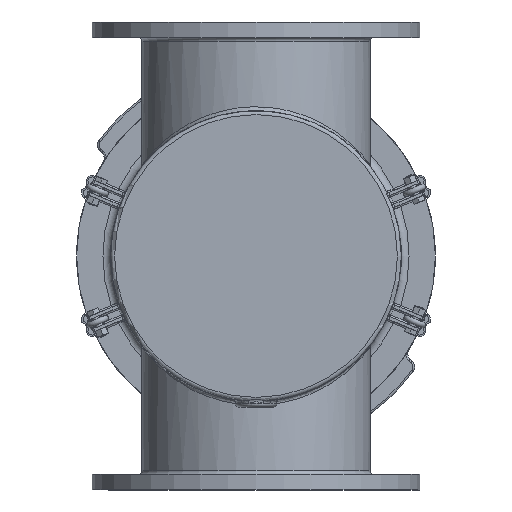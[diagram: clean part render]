
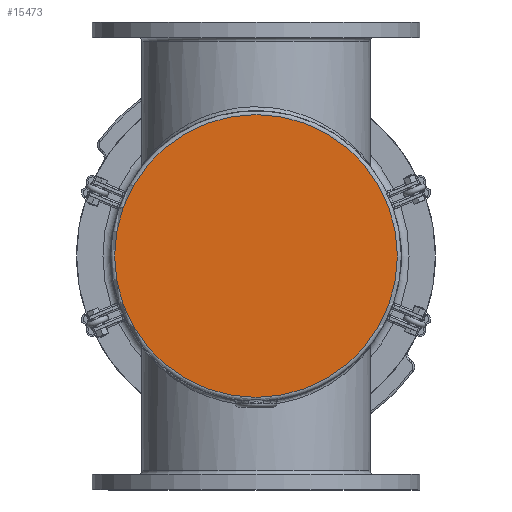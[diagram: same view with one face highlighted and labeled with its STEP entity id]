
A CAD part, front view. The second image highlights one B-rep face of the part: STEP entity #15473.
In plain terms, the highlighted planar face has unit normal (0, -1, 0).
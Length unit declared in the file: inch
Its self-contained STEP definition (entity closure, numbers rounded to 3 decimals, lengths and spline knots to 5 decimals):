
#2186=PLANE('',#16515);
#3487=FACE_OUTER_BOUND('',#4481,.T.);
#4481=EDGE_LOOP('',(#10336));
#5699=CIRCLE('',#16511,9.0625);
#6671=VERTEX_POINT('',#23810);
#8080=EDGE_CURVE('',#6671,#6671,#5699,.T.);
#10336=ORIENTED_EDGE('',*,*,#8080,.F.);
#15473=ADVANCED_FACE('',(#3487),#2186,.F.);
#16511=AXIS2_PLACEMENT_3D('',#23811,#18558,#18559);
#16515=AXIS2_PLACEMENT_3D('',#23816,#18566,#18567);
#18558=DIRECTION('center_axis',(0.,1.,0.));
#18559=DIRECTION('ref_axis',(1.,0.,0.));
#18566=DIRECTION('center_axis',(0.,1.,0.));
#18567=DIRECTION('ref_axis',(0.,0.,1.));
#23810=CARTESIAN_POINT('',(-9.0625,0.,0.));
#23811=CARTESIAN_POINT('Origin',(0.,0.,0.));
#23816=CARTESIAN_POINT('Origin',(0.,0.,0.));
